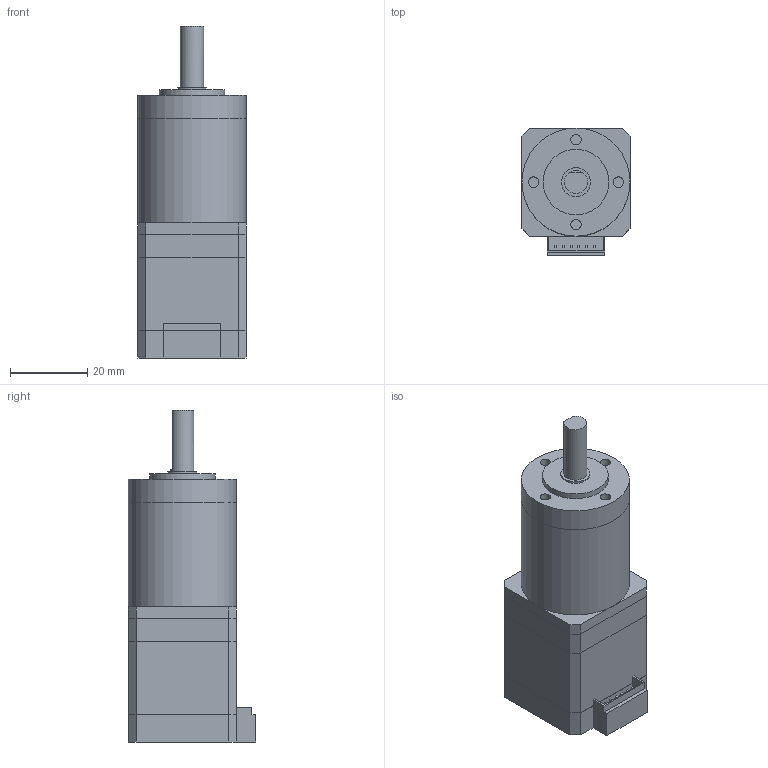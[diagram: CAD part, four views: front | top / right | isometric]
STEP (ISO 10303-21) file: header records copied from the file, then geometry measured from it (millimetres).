
FILE_DESCRIPTION(/* description */ (''),/* implementation_level */ '2;1');
FILE_NAME(/* name */ '28PG020-D07-0432.stp',/* time_stamp */ '2018-08-30T16:54:03+08:00',/* author */ (''),/* organization */ (''),/* preprocessor_version */ 'ST-DEVELOPER v11',/* originating_system */ 'SIEMENS UGS NX 6.0',/* authorisation */ '');
FILE_SCHEMA (('CONFIG_CONTROL_DESIGN'));
Length unit declared in the file: millimetre
Products named in the file (1): 28PG020-D07-0432
Bounding box: 28 x 33 x 86 mm (x, y, z)
Volume: 48481.2 mm3; surface area: 16916.9 mm2
Topology: 8 solids, 8 shells, 109 faces, 251 edges, 165 vertices
Faces by surface type: plane 95, cylinder 10, cone 4
Full cylindrical faces by diameter (mm): 2.7 x4, 6 x2, 7.5 x1, 17 x1, 28 x2
Entity records: 3038 total; most frequent: CARTESIAN_POINT 508, DIRECTION 480, ORIENTED_EDGE 470, EDGE_CURVE 235, LINE 210, VECTOR 210, VERTEX_POINT 163, EDGE_LOOP 140
